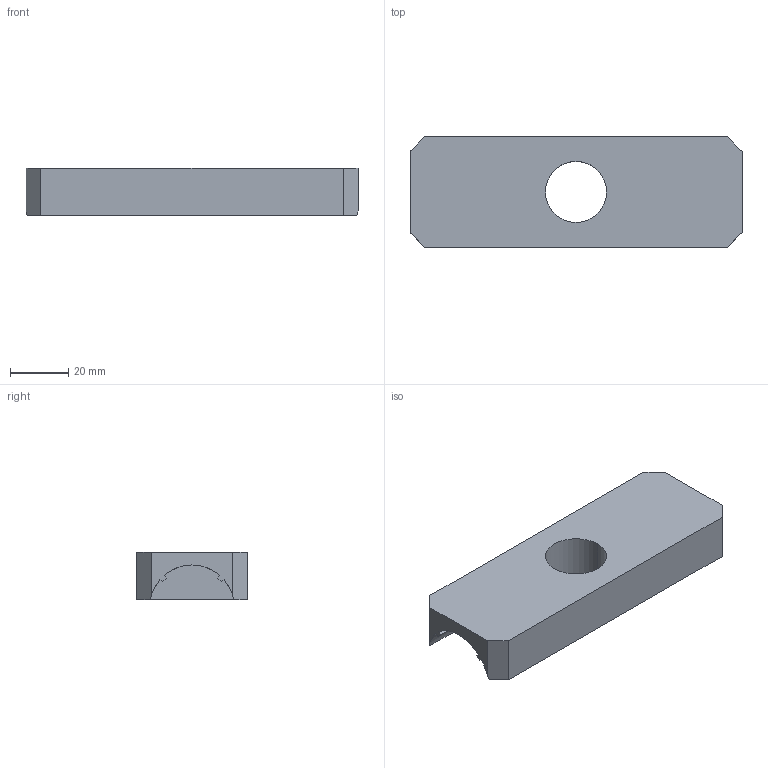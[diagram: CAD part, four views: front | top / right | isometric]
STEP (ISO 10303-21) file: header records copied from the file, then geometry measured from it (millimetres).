
FILE_DESCRIPTION(/* description */ ('STEP AP242 Edition 2','CAx-IF Rec.Pracs.---Representation and Presentation of Product Manufacturing Information (PMI)---4.0---2014-10-13','CAx-IF Rec.Pracs.---3D Tessellated Geometry---0.4---2014-09-14','2;1','CAx-IF Rec.Pracs.---User Defined Attributes---1.5---2016-08-15'),/* implementation_level */ '2;1');
FILE_NAME(/* name */ 'wall edge - boundary edge upper',/* time_stamp */ '2026-06-03T10:26:46Z',/* author */ (''),/* organization */ (''),/* preprocessor_version */ 'ST-DEVELOPER v20',/* originating_system */ 'ONSHAPE BY PTC INC, 1.215',/* authorisation */ ' ');
FILE_SCHEMA (('AP242_MANAGED_MODEL_BASED_3D_ENGINEERING_MIM_LF { 1 0 10303 442 3 1 4 }'));
Length unit declared in the file: metre
Products named in the file (1): boundary edge upper
Bounding box: 114.3 x 38.1 x 16.51 mm (x, y, z)
Volume: 42517.6 mm3; surface area: 15320.6 mm2
Topology: 1 solids, 1 shells, 34 faces, 96 edges, 64 vertices
Faces by surface type: plane 24, cylinder 10
Entity records: 1138 total; most frequent: DIRECTION 198, CARTESIAN_POINT 195, ORIENTED_EDGE 192, EDGE_CURVE 96, AXIS2_PLACEMENT_3D 67, LINE 64, VECTOR 64, VERTEX_POINT 64
